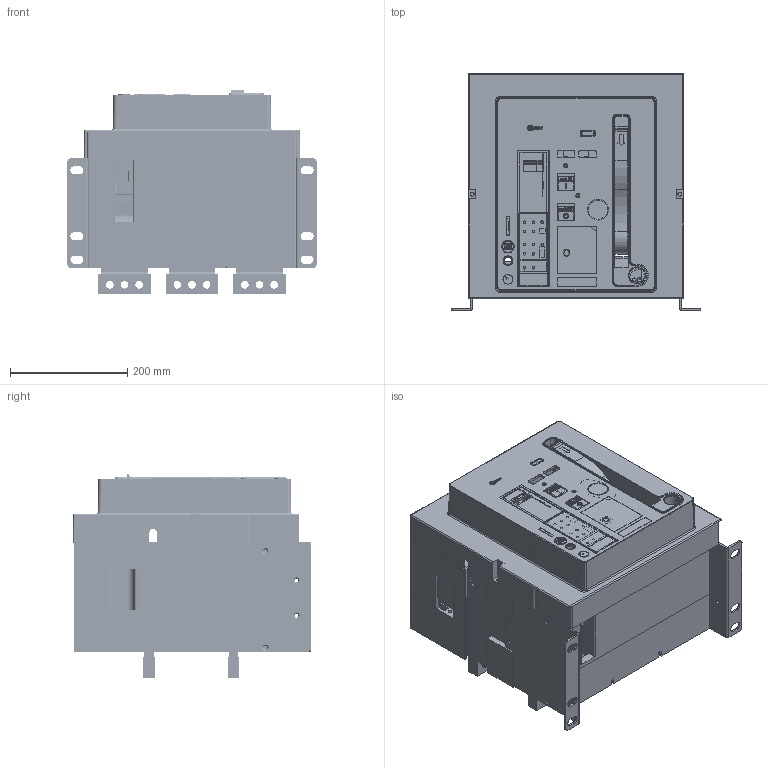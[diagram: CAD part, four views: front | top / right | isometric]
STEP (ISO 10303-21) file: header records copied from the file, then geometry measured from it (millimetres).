
FILE_DESCRIPTION((''),'2;1');
FILE_NAME('HG_11_B323H_FIX_ASM_ASM_ASM','2019-03-29T',('HHI'),(''),'PRO/ENGINEER BY PARAMETRIC TECHNOLOGY CORPORATION, 2012453','PRO/ENGINEER BY PARAMETRIC TECHNOLOGY CORPORATION, 2012453','');
FILE_SCHEMA(('CONFIG_CONTROL_DESIGN'));
Products named in the file (25): PRT0422; PRT0423; PRT0424; PRT0425; PRT0426; PRT0427; ASM0041_ASM_ASM; PRT0428; PRT0429; PRT0430; ASM0042_ASM_ASM; PRT0431; PRT0432; ASM0040_ASM_ASM; PRT0433; PRT0434; PRT0435; ASM0039_ASM_ASM; TERMINAL_B32_10; B323H_FIX_ASM_3_ASM_ASM; PRT0436; PRT0437; PRT0438; ASM0079_ASM; HG_11_B323H_FIX_ASM_ASM_ASM
Assembly tree (31 placements, depth 7):
  HG_11_B323H_FIX_ASM_ASM_ASM
    ASM0079_ASM
      B323H_FIX_ASM_3_ASM_ASM
        ASM0039_ASM_ASM
          PRT0422
          PRT0423
          ASM0040_ASM_ASM
            ASM0041_ASM_ASM
              PRT0424
              PRT0425
              PRT0426
              PRT0427
            ASM0042_ASM_ASM
              PRT0428
              PRT0429
              PRT0430
            PRT0431
            PRT0432
          PRT0433  x3
          PRT0434
          PRT0435
        TERMINAL_B32_10  x6
      PRT0436
      PRT0437
      PRT0438
Bounding box: 424.4 x 405.08 x 346.23 mm (x, y, z)
Volume: 7509254.3 mm3; surface area: 2736696.1 mm2
Topology: 25 solids, 31 shells, 6966 faces, 19457 edges, 12660 vertices
Faces by surface type: plane 4303, cylinder 2009, torus 248, extrusion 141, cone 108, sphere 96, bspline 61
Entity records: 221686 total; most frequent: CARTESIAN_POINT 45297, ORIENTED_EDGE 37490, DIRECTION 35802, EDGE_CURVE 18753, VECTOR 13566, LINE 13425, VERTEX_POINT 12260, AXIS2_PLACEMENT_3D 11118
